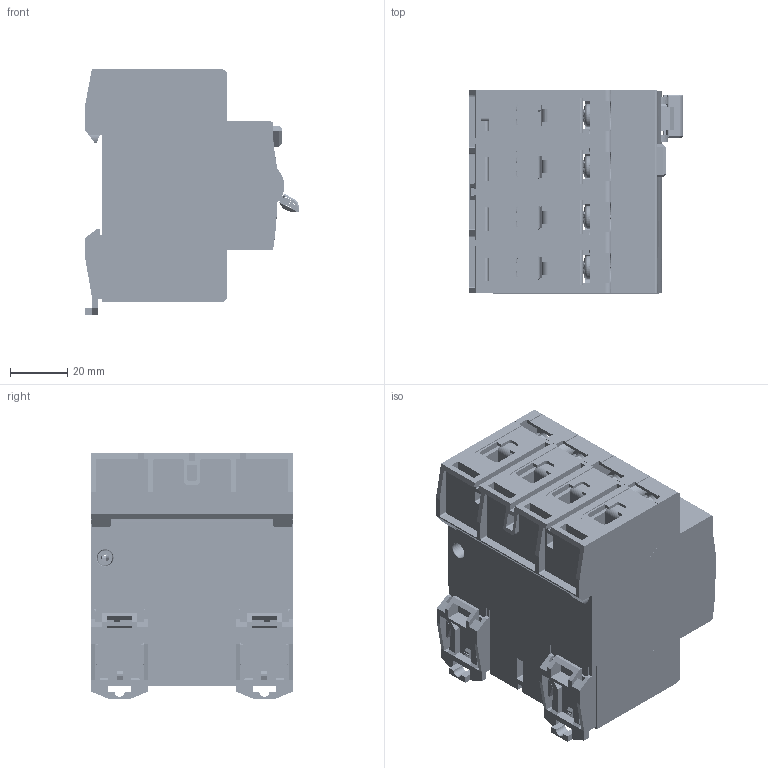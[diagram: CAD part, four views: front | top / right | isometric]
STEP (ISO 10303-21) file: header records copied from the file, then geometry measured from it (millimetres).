
FILE_DESCRIPTION (( 'STEP AP214' ), '1' );
FILE_NAME ('TFV4-16030.STEP', '2026-03-23T11:40:23', ( '' ), ( '' ), 'SwSTEP 2.0', 'SolidWorks 2025', '' );
FILE_SCHEMA (( 'AUTOMOTIVE_DESIGN' ));
Length unit declared in the file: millimetre
Products named in the file (1): TFV4-16030
Bounding box: 75.16 x 71 x 85.88 mm (x, y, z)
Volume: 82669.7 mm3; surface area: 113925.7 mm2
Topology: 36 solids, 36 shells, 4827 faces, 14430 edges, 9719 vertices
Faces by surface type: plane 2907, cylinder 1594, bspline 204, torus 82, cone 37, sphere 3
Entity records: 311321 total; most frequent: CARTESIAN_POINT 145762, ORIENTED_EDGE 28856, DIRECTION 22382, EDGE_CURVE 14428, VERTEX_POINT 9718, VECTOR 9204, LINE 9204, AXIS2_PLACEMENT_3D 6589
